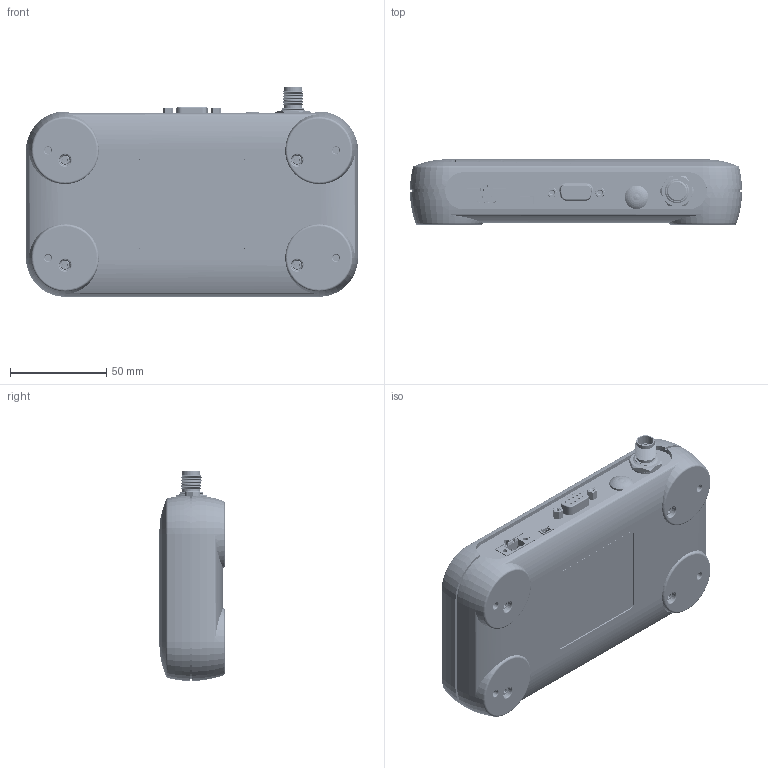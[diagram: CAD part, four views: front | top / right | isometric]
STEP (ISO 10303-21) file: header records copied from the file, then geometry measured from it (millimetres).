
FILE_DESCRIPTION (( 'STEP AP214' ), '1' );
FILE_NAME ('FGR3-CE-U.STEP', '2018-12-16T23:32:50', ( '' ), ( '' ), 'SwSTEP 2.0', 'SolidWorks 2016', '' );
FILE_SCHEMA (( 'AUTOMOTIVE_DESIGN' ));
Length unit declared in the file: inch
Products named in the file (49): EIC4302US; _P2SSQ_110_01_G_S_001_4; EIC0256VS; _T1SSQ_110_01_G_S_001_2; ECN0013FR; ECN1609FR; HSC0416TS_92196A115; MST0130SC; HSH0401HS_92710A216; ASC0003TS; MST0130SF; Washer, sq, 4-40, used on ecn1609fr; ECB2601CB; ECN2078FP (MLE)_rev A; ECN1609FR metal insert; ECN0310MR; ECN1010ME_rev E, F; ECN1609FR component; L-com BAC528; EPC0949AA; ECN0331FR; BAC528-Body; MCA1001TF_Rev. G; ECN0502FR; BAC528-Seal; MSH0019FP; ESW0101PR; BAC528-Washer; MCA1005GB_rev A; EPC0026IC; BAC528-Nut; MCA1001BE_rev E; ARD2401AC; CTP0001FG_Compressed; EOP0062RG; LAB0045AA_s; FGR3-CE-U; EIC3221SS; LLR0030SP; EIC1976PS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
Assembly tree (57 placements, depth 4):
  FGR3-CE-U
    MCA1001BE_rev E
    MCA1005GB_rev A
    MSH0019FP
    MCA1001TF_Rev. G
    ARD2401AC
      EPC0949AA
      ECN1010ME_rev E, F
      ECN2078FP (MLE)_rev A
      MST0130SF
      MST0130SC
      ECN0013FR
      EIC0256VS
      EIC4302US
      EIN0203FS
      EIC3070SS
      EIC3387SS
      EDI1504SD  x2
      EIC1976PS
      EIC3221SS
      EOP0062RG  x3
    AIA0036AT_rev MI
      EPC0026IC
      ESW0101PR
      ECN0502FR
      ECN0331FR
      ECN1609FR
        ECN1609FR component
        ECN1609FR metal insert  x2
        Washer, sq, 4-40, used on ecn1609fr  x2
        HSH0401HS_92710A216  x2
      ECN1010FV
        _T1SSQ_110_01_G_S_001_2
        _P2SSQ_110_01_G_S_001_4
      ECN2078ME
    MCA1003LC_rev C
    MCA1004BB
    LLR0030SP
    LAB0045AA_s
    CTP0001FG_Compressed
    ASC0003TS
      L-com BAC528
        BAC528-Nut
        BAC528-Washer
        BAC528-Seal
        BAC528-Body
      ECN0310MR
      ECB2601CB
    HSC0416TS_92196A115  x4
Bounding box: 172.71 x 34.04 x 109.11 mm (x, y, z)
Volume: 216988.6 mm3; surface area: 182423.1 mm2
Topology: 256 solids, 256 shells, 7477 faces, 19865 edges, 13538 vertices
Faces by surface type: plane 4920, cylinder 1924, cone 355, torus 165, bspline 103, sphere 10
Entity records: 246231 total; most frequent: CARTESIAN_POINT 54680, ORIENTED_EDGE 36056, DIRECTION 33437, EDGE_CURVE 18028, LINE 13067, VECTOR 13067, VERTEX_POINT 12368, AXIS2_PLACEMENT_3D 10185
